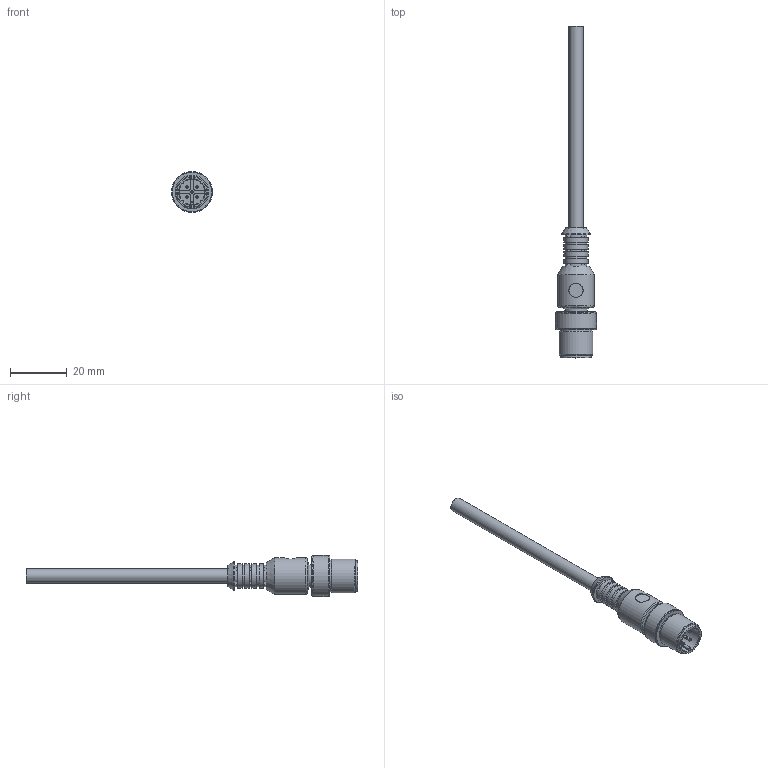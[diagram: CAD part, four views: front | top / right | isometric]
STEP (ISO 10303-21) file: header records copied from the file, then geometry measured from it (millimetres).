
FILE_DESCRIPTION (( 'STEP AP214' ), '1' );
FILE_NAME ('FICHE M12 MALE.STEP', '2021-09-24T09:54:46', ( '' ), ( '' ), 'SwSTEP 2.0', 'SolidWorks 2021', '' );
FILE_SCHEMA (( 'AUTOMOTIVE_DESIGN' ));
Length unit declared in the file: millimetre
Products named in the file (1): FICHE M12 MALE
Bounding box: 14.5 x 117.4 x 14.5 mm (x, y, z)
Volume: 5592.5 mm3; surface area: 3786.6 mm2
Topology: 1 solids, 1 shells, 130 faces, 307 edges, 202 vertices
Faces by surface type: plane 65, cylinder 41, cone 13, bspline 10, torus 1
Full cylindrical faces by diameter (mm): 1 x5, 5 x1, 7.5 x2, 8 x1, 8.5 x4, 9 x1, 10 x1, 10.8 x1, 11.25 x1, 12 x1, 13 x1, 14.25 x2, 14.5 x1
Entity records: 4191 total; most frequent: CARTESIAN_POINT 1061, DIRECTION 572, ORIENTED_EDGE 498, EDGE_CURVE 249, AXIS2_PLACEMENT_3D 224, EDGE_LOOP 200, VERTEX_POINT 191, FACE_OUTER_BOUND 163
